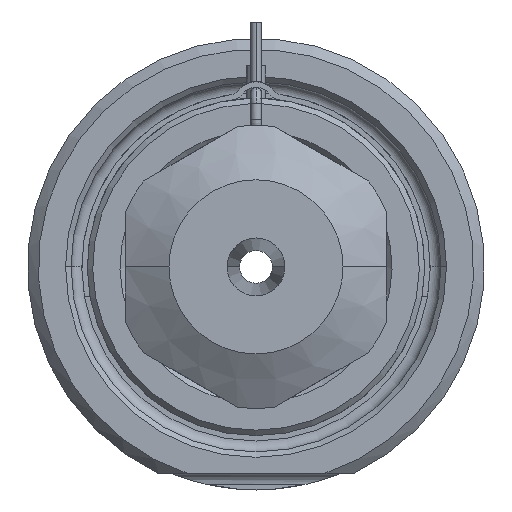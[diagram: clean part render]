
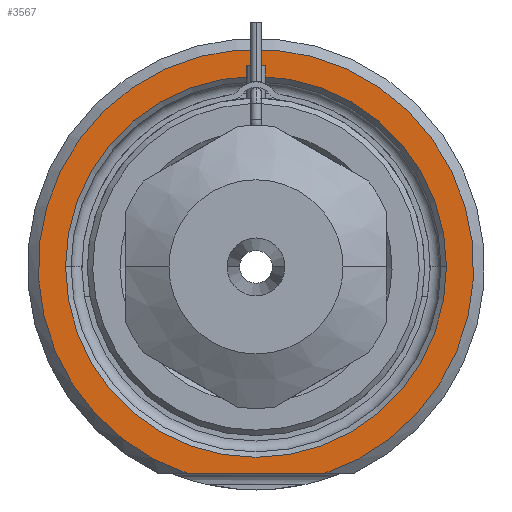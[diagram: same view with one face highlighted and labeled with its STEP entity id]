
A CAD part, front view. The second image highlights one B-rep face of the part: STEP entity #3567.
In plain terms, the highlighted planar face has unit normal (0, -1, 0).
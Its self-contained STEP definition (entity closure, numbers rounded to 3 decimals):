
#708=DIRECTION('',(1.,0.,0.));
#709=VECTOR('',#708,12.49);
#710=CARTESIAN_POINT('',(-6.245,0.,-19.));
#711=LINE('',#710,#709);
#712=CARTESIAN_POINT('',(0.,0.,0.));
#713=DIRECTION('',(0.,1.,0.));
#714=DIRECTION('',(-1.,0.,0.));
#715=AXIS2_PLACEMENT_3D('',#712,#713,#714);
#717=CARTESIAN_POINT('',(0.,0.,0.));
#718=DIRECTION('',(0.,1.,0.));
#719=DIRECTION('',(1.,0.,0.));
#720=AXIS2_PLACEMENT_3D('',#717,#718,#719);
#826=CARTESIAN_POINT('',(0.,0.,0.));
#827=DIRECTION('',(0.,-1.,0.));
#828=DIRECTION('',(0.312,0.,-0.95));
#829=AXIS2_PLACEMENT_3D('',#826,#827,#828);
#2396=CARTESIAN_POINT('',(-17.5,0.,0.));
#2397=CARTESIAN_POINT('',(17.5,0.,0.));
#2398=VERTEX_POINT('',#2396);
#2399=VERTEX_POINT('',#2397);
#2454=CARTESIAN_POINT('',(-6.245,0.,-19.));
#2455=CARTESIAN_POINT('',(6.245,0.,-19.));
#2456=VERTEX_POINT('',#2454);
#2457=VERTEX_POINT('',#2455);
#3551=CARTESIAN_POINT('',(0.,0.,0.));
#3552=DIRECTION('',(0.,-1.,0.));
#3553=DIRECTION('',(1.,0.,0.));
#3554=AXIS2_PLACEMENT_3D('',#3551,#3552,#3553);
#3555=PLANE('',#3554);
#3557=ORIENTED_EDGE('',*,*,#3556,.F.);
#3559=ORIENTED_EDGE('',*,*,#3558,.F.);
#3560=EDGE_LOOP('',(#3557,#3559));
#3561=FACE_OUTER_BOUND('',#3560,.F.);
#3562=ORIENTED_EDGE('',*,*,#3541,.F.);
#3564=ORIENTED_EDGE('',*,*,#3563,.F.);
#3565=EDGE_LOOP('',(#3562,#3564));
#3566=FACE_BOUND('',#3565,.F.);
#3567=ADVANCED_FACE('',(#3561,#3566),#3555,.T.);
#716=CIRCLE('',#715,17.5);
#721=CIRCLE('',#720,17.5);
#830=CIRCLE('',#829,20.);
#3541=EDGE_CURVE('',#2398,#2399,#716,.T.);
#3556=EDGE_CURVE('',#2456,#2457,#711,.T.);
#3558=EDGE_CURVE('',#2457,#2456,#830,.T.);
#3563=EDGE_CURVE('',#2399,#2398,#721,.T.);
